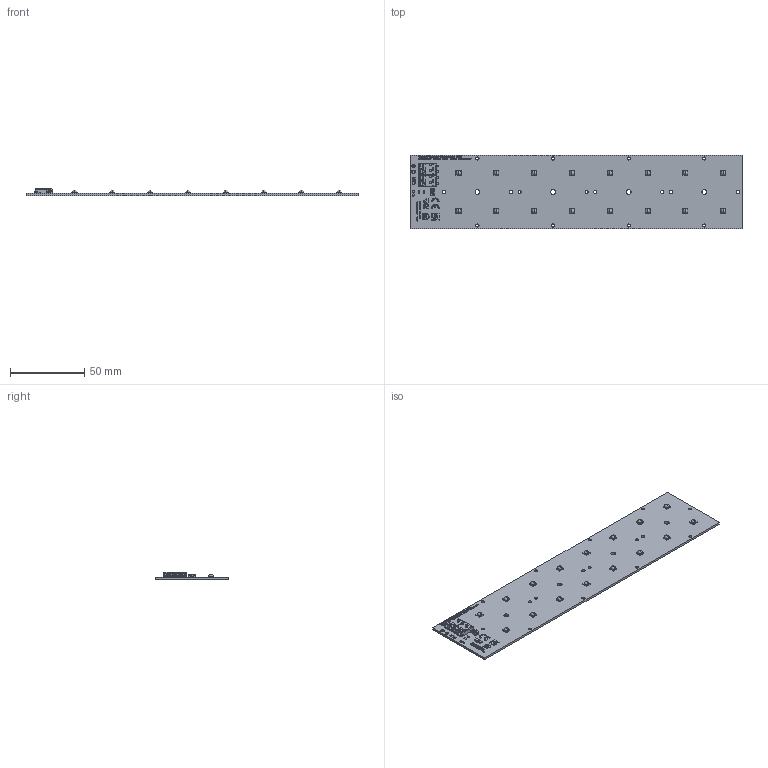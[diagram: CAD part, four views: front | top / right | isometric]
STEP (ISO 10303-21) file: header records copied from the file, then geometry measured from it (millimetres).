
FILE_DESCRIPTION(('Creo Elements/Direct Modeling STEP Export'),'2;1');
FILE_NAME('3D-Modell_MSP SC 2R_Z15_3535_T_16_yzz G5.stp','2025-06-18T13:22:25',(''),(''),'PTC Creo Elements/Direct Modeling STEP processor for AP214 (Solid Model)','PTC Creo Elements/Direct Modeling 19.0E 27-Jun-2016 (C) Parametric Technology GmbH','');
FILE_SCHEMA(('AUTOMOTIVE_DESIGN { 1 0 10303 214 1 1 1 1 }'));
Length unit declared in the file: millimetre
Products named in the file (238): p1; 2500-00565C_1.PRT; 2500-00565C-BT_1_1.PRT; 2500-00565C-BT_1_2.PRT; 2500-00565C-BT_1_3.PRT; 2500-00565C-BT_1.ASM; 2500-00565C-SBN_1.PRT; 2500-00565C-SB_1.PRT; 2500-00565C_ASM_1.ASM; 2610-00066-DOME_1.PRT; 2610-00066_ASM_1.ASM; XLAMP_XP-G4.STEP; SMA__DO-214AC_.prt; SMA__DO-214AC_.STEP; Print.80; Print.83; Print.79; Print.84; Print.81; Print.77; Print.78; Print.85; Print.87; Print.82; Print.86; Print.34; Print.33; Print.32; Print.31; Print.30; Print.29; Print.25; Print.28; Print.26; Print.27; Print.17; Print.14; Print.24; Print.18; Print.16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
Assembly tree (233 placements, depth 5):
  p1
  XLAMP_XP-G4.STEP
    2610-00066_ASM_1.ASM
      2610-00066-DOME_1.PRT
      2500-00565C_ASM_1.ASM
        2500-00565C-SB_1.PRT
        2500-00565C-SBN_1.PRT
        2500-00565C-BT_1.ASM
          2500-00565C-BT_1_3.PRT
          2500-00565C-BT_1_2.PRT
          2500-00565C-BT_1_1.PRT
        2500-00565C_1.PRT
  SMA__DO-214AC_.STEP
    SMA__DO-214AC_.prt
  Print_on_Plate
    Print.48
    Print.46
    Print.51
    Print.47
    Print.45
    Print.53
    Print.44
    Print.54
    Print.52
    Print.50
    Print.49
    Print.56
    Print.58
    Print.60
    Print.61
    Print.57
    Print.55
    Print.65
    Print.59
    Print.62
    Print.64
    Print.63
    Print.40
    Print.37
    Print.36
    Print.35
    Print.39
    Print.38
    Print.42
    Print.41
    Print.43
    Print.10
    Print.11
    Print.13
    Print.3
    Print.6
    Print.4
    Print.12
    Print.8
    Print.7
    Print.5
    Print.9
    Print.110
    Print.100
    Print.103
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Bounding box: 223 x 49.5 x 4.95 mm (x, y, z)
Volume: 16712.7 mm3; surface area: 25336.8 mm2
Topology: 229 solids, 231 shells, 4585 faces, 11962 edges, 7844 vertices
Faces by surface type: plane 3098, cylinder 978, bspline 198, cone 124, sphere 68, torus 64, extrusion 55
Entity records: 139269 total; most frequent: CARTESIAN_POINT 25365, ORIENTED_EDGE 17338, DIRECTION 16543, EDGE_CURVE 8670, VECTOR 6627, LINE 6572, VERTEX_POINT 5712, AXIS2_PLACEMENT_3D 4958
